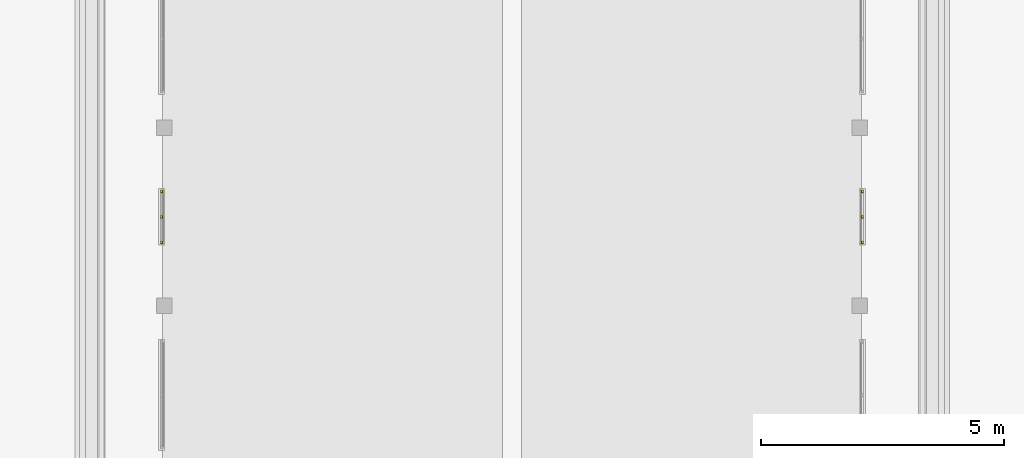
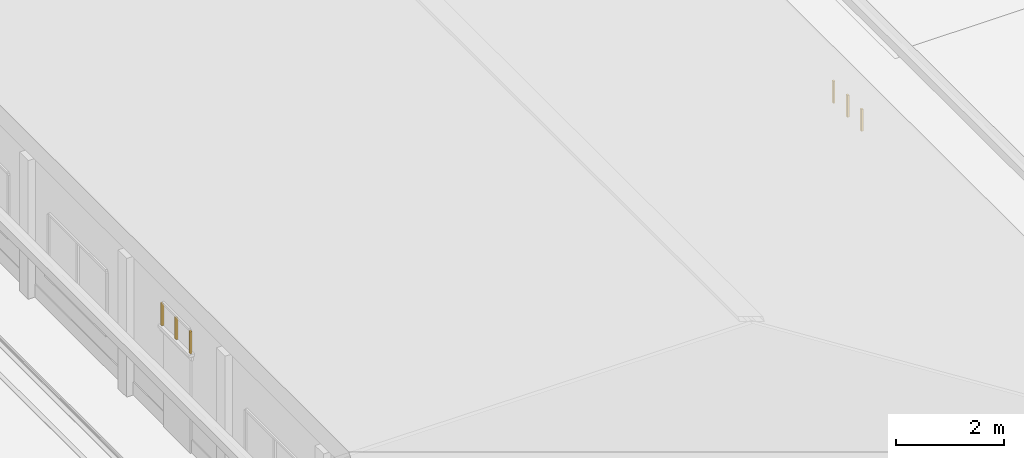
# One storey, part 85 of 177: 6 windows.
"""IFC4 building model written with IfcOpenShell, lengths in metres."""

from ifc_helpers import new_model, si_unit, origin, origin_with_axes, place, context, subcontext, project, spatial, triangles, element, save


model = new_model("IFC4")

# Units and contexts
model_context = context("Model", 3, precision=1e-05, world=origin_with_axes())
body_context = subcontext(model_context, "Body", "Model", "MODEL_VIEW")
ifc_project = project(units=[si_unit("LENGTHUNIT", "METRE"), si_unit("AREAUNIT", "SQUARE_METRE"), si_unit("VOLUMEUNIT", "CUBIC_METRE"), si_unit("PLANEANGLEUNIT", "RADIAN")], contexts=[model_context])

# Site, building, storey
site_placement = place(None, origin_with_axes())
site = spatial("IfcSite", under=ifc_project, at=site_placement, Name="Predio Los Mangos - Morales, San Martín", CompositionType="ELEMENT")
building_placement = place(site_placement, origin())
building = spatial("IfcBuilding", under=site, at=building_placement, Name="Hogar de Refugio Temporal", CompositionType="ELEMENT")
storey_placement = place(building_placement, origin())
storey = spatial("IfcBuildingStorey", under=building, at=storey_placement, Name="NIVEL 1 (NPT +0.00)", CompositionType="ELEMENT", Elevation=0.0)

# Windows
window_1_placement = place(storey_placement, origin())
element("IfcWindow", 1, at=window_1_placement, inside=storey, Name="E-05_vt4_m", ObjectType="Ventana", PredefinedType="WINDOW", context=body_context, shape_type="Tessellation", body=[
    triangles([(45.22, 73.8313, 2.45), (45.26, 73.8313, 2.45), (45.26, 73.8812, 2.45), (45.22, 73.8812, 2.45), (45.22, 73.8313, 2.95), (45.26, 73.8313, 2.95), (45.26, 73.8812, 2.95), (45.22, 73.8812, 2.95)], [[1, 4, 3], [1, 3, 2], [5, 6, 7], [5, 7, 8], [1, 2, 6], [1, 6, 5], [2, 3, 7], [2, 7, 6], [3, 4, 8], [3, 8, 7], [4, 1, 5], [4, 5, 8]]),
])
window_2_placement = place(storey_placement, origin())
element("IfcWindow", 2, at=window_2_placement, inside=storey, Name="E-05_vt4_m", ObjectType="Ventana", PredefinedType="WINDOW", context=body_context, shape_type="Tessellation", body=[
    triangles([(45.22, 74.8812, 2.45), (45.26, 74.8812, 2.45), (45.26, 74.9313, 2.45), (45.22, 74.9313, 2.45), (45.22, 74.8812, 2.95), (45.26, 74.8812, 2.95), (45.26, 74.9313, 2.95), (45.22, 74.9313, 2.95)], [[1, 4, 3], [1, 3, 2], [5, 6, 7], [5, 7, 8], [1, 2, 6], [1, 6, 5], [2, 3, 7], [2, 7, 6], [3, 4, 8], [3, 8, 7], [4, 1, 5], [4, 5, 8]]),
])
window_3_placement = place(storey_placement, origin())
element("IfcWindow", 3, at=window_3_placement, inside=storey, Name="E-05_vt4_m", ObjectType="Ventana", PredefinedType="WINDOW", context=body_context, shape_type="Tessellation", body=[
    triangles([(45.22, 74.3562, 2.45), (45.26, 74.3562, 2.45), (45.26, 74.4062, 2.45), (45.22, 74.4062, 2.45), (45.22, 74.3562, 2.95), (45.26, 74.3562, 2.95), (45.26, 74.4062, 2.95), (45.22, 74.4062, 2.95)], [[1, 4, 3], [1, 3, 2], [5, 6, 7], [5, 7, 8], [1, 2, 6], [1, 6, 5], [2, 3, 7], [2, 7, 6], [3, 4, 8], [3, 8, 7], [4, 1, 5], [4, 5, 8]]),
])
window_4_placement = place(storey_placement, origin())
element("IfcWindow", 4, at=window_4_placement, inside=storey, Name="E-05_vt4_m", ObjectType="Ventana", PredefinedType="WINDOW", context=body_context, shape_type="Tessellation", body=[
    triangles([(59.64, 73.8313, 2.45), (59.68, 73.8313, 2.45), (59.68, 73.8812, 2.45), (59.64, 73.8812, 2.45), (59.64, 73.8313, 2.95), (59.68, 73.8313, 2.95), (59.68, 73.8812, 2.95), (59.64, 73.8812, 2.95)], [[1, 4, 3], [1, 3, 2], [5, 6, 7], [5, 7, 8], [1, 2, 6], [1, 6, 5], [2, 3, 7], [2, 7, 6], [3, 4, 8], [3, 8, 7], [4, 1, 5], [4, 5, 8]]),
])
window_5_placement = place(storey_placement, origin())
element("IfcWindow", 5, at=window_5_placement, inside=storey, Name="E-05_vt4_m", ObjectType="Ventana", PredefinedType="WINDOW", context=body_context, shape_type="Tessellation", body=[
    triangles([(59.64, 74.8812, 2.45), (59.68, 74.8812, 2.45), (59.68, 74.9313, 2.45), (59.64, 74.9313, 2.45), (59.64, 74.8812, 2.95), (59.68, 74.8812, 2.95), (59.68, 74.9313, 2.95), (59.64, 74.9313, 2.95)], [[1, 4, 3], [1, 3, 2], [5, 6, 7], [5, 7, 8], [1, 2, 6], [1, 6, 5], [2, 3, 7], [2, 7, 6], [3, 4, 8], [3, 8, 7], [4, 1, 5], [4, 5, 8]]),
])
window_6_placement = place(storey_placement, origin())
element("IfcWindow", 6, at=window_6_placement, inside=storey, Name="E-05_vt4_m", ObjectType="Ventana", PredefinedType="WINDOW", context=body_context, shape_type="Tessellation", body=[
    triangles([(59.64, 74.3562, 2.45), (59.68, 74.3562, 2.45), (59.68, 74.4062, 2.45), (59.64, 74.4062, 2.45), (59.64, 74.3562, 2.95), (59.68, 74.3562, 2.95), (59.68, 74.4062, 2.95), (59.64, 74.4062, 2.95)], [[1, 4, 3], [1, 3, 2], [5, 6, 7], [5, 7, 8], [1, 2, 6], [1, 6, 5], [2, 3, 7], [2, 7, 6], [3, 4, 8], [3, 8, 7], [4, 1, 5], [4, 5, 8]]),
])

save(model, "model.ifc")
